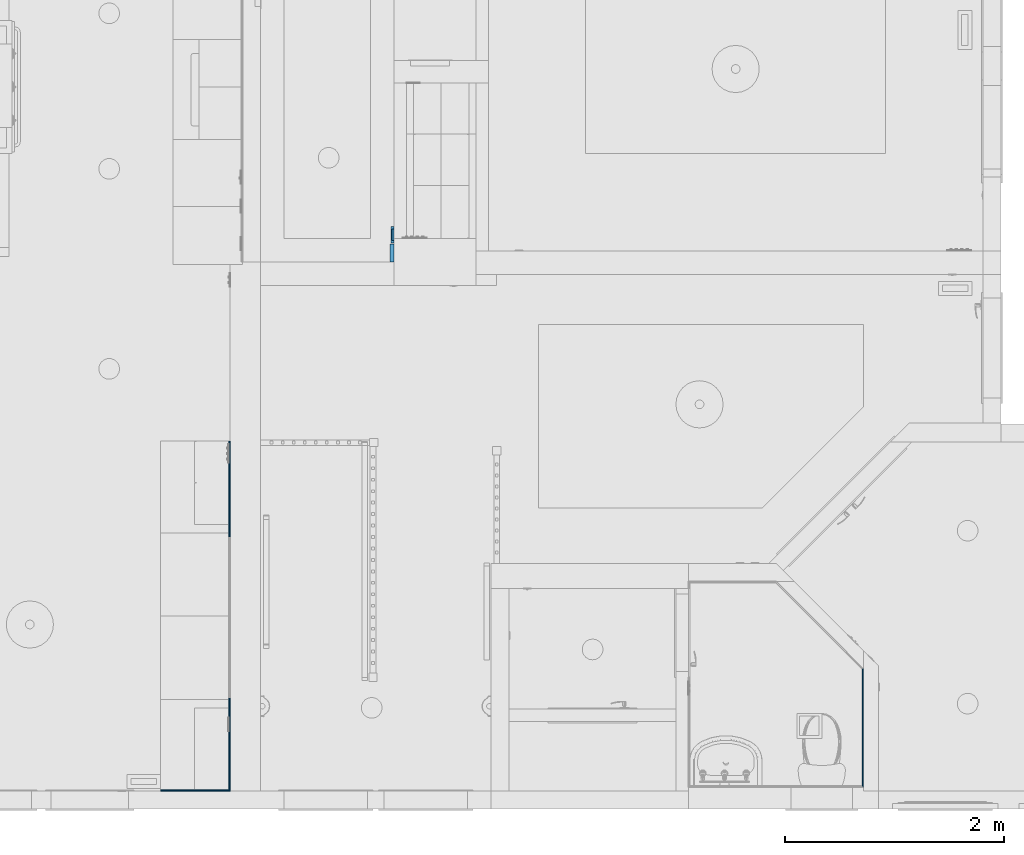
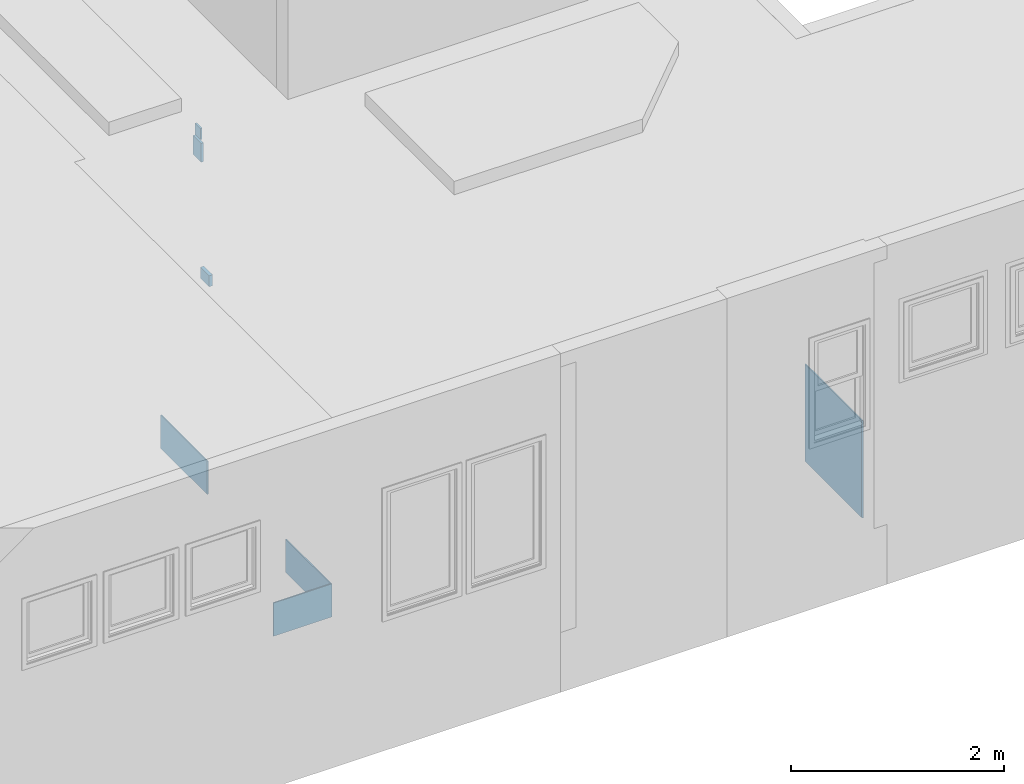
# One storey, part 4 of 103: 7 beams.
"""IFC2X3 building model written with IfcOpenShell, lengths in inches."""

from ifc_helpers import new_model, entity, si_unit, converted_unit, derived_unit, money_unit, direction, frame, origin_with_axes, place, context, subcontext, project, spatial, faceted_brep, material, type_object, element, save


model = new_model("IFC2X3")

# Units and contexts
model_context = context("Model", 3, precision=0.00039370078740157, world=origin_with_axes(), true_north=direction((0.0, 1.0)))
plan_context = context("Plan", 3, precision=0.00039370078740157, world=origin_with_axes(), true_north=direction((0.0, 1.0)))
body_context = subcontext(model_context, "Body", "Model", "MODEL_VIEW")
ifc_project = project(units=[converted_unit("LENGTHUNIT", "INCH", entity("IfcPositiveLengthMeasure", 0.0254), si_unit("LENGTHUNIT", "METRE"), dimensions=[1, 0, 0, 0, 0, 0, 0]), converted_unit("AREAUNIT", "SQUARE_FOOT", entity("IfcPositiveLengthMeasure", 0.09290304), si_unit("AREAUNIT", "SQUARE_METRE"), dimensions=[2, 0, 0, 0, 0, 0, 0]), si_unit("PLANEANGLEUNIT", "RADIAN"), si_unit("SOLIDANGLEUNIT", "STERADIAN"), money_unit("USD"), converted_unit("TIMEUNIT", "Year", entity("IfcTimeMeasure", 31557600.0), si_unit("TIMEUNIT", "SECOND"), dimensions=[0, 0, 1, 0, 0, 0, 0]), si_unit("MASSUNIT", "GRAM", prefix="KILO"), si_unit("THERMODYNAMICTEMPERATUREUNIT", "DEGREE_CELSIUS"), si_unit("LUMINOUSINTENSITYUNIT", "LUMEN"), si_unit("ENERGYUNIT", "JOULE", prefix="MEGA"), derived_unit("SPECIFICHEATCAPACITYUNIT", [(si_unit("ENERGYUNIT", "JOULE"), 1), (si_unit("MASSUNIT", "GRAM", prefix="KILO"), -1), (si_unit("THERMODYNAMICTEMPERATUREUNIT", "KELVIN"), -1)])], contexts=[model_context, plan_context])

# Site, building, storey
site_placement = place(None, origin_with_axes())
site = spatial("IfcSite", under=ifc_project, at=site_placement, Name="Site", CompositionType="ELEMENT")
building_placement = place(site_placement, origin_with_axes())
building = spatial("IfcBuilding", under=site, at=building_placement, Name="Building", CompositionType="ELEMENT")
storey_placement = place(building_placement, frame((0.0, 0.0, 127.9999999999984), z_axis=(0.0, 0.0, 1.0), x_axis=(1.0, 0.0, 0.0)))
storey = spatial("IfcBuildingStorey", under=building, at=storey_placement, Name="Second Floor", CompositionType="ELEMENT", Elevation=128.0)

# Beams
ifc_material_1 = material(Name="Tile - Walls")
beam_type_1 = type_object("IfcBeamType", Name="Tile - Walls 1/2\" x 15\"", PredefinedType="BEAM")
beam_1_placement = place(storey_placement, frame((125.5002584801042, 6.500653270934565, 35.99999999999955), z_axis=(0.0, 0.0, 1.0), x_axis=(-2.613110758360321e-05, -0.9999999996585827, 0.0)))
element("IfcBeam", 1, at=beam_1_placement, inside=storey, type_object=beam_type_1, material=ifc_material_1, Name="BMR - 041", context=body_context, shape_type="Brep", body=[
    faceted_brep([(-0.4999999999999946, 0.0, 0.0), (-0.4999999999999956, 24.49973131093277, 0.0), (0.0, 24.99974152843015, 0.0), (0.0, 0.0, 0.0), (-0.4999999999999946, 0.0, 14.99999999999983), (-0.4999999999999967, 24.49973131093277, 14.99999999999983), (0.0, 24.99974152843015, 14.99999999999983), (0.0, 0.0, 14.99999999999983)], [[[0, 1, 2, 3]], [[4, 5, 1, 0]], [[2, 1, 5, 6]], [[3, 2, 6, 7]], [[4, 0, 3, 7]], [[7, 6, 5, 4]]]),
])
beam_2_placement = place(storey_placement, frame((150.5000737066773, 98.00070408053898, 35.99999999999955), z_axis=(0.0, 0.0, 1.0), x_axis=(0.9999999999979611, 2.019381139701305e-06, 0.0)))
element("IfcBeam", 2, at=beam_2_placement, inside=storey, type_object=beam_type_1, material=ifc_material_1, Name="BMR - 041", context=body_context, shape_type="Brep", body=[
    faceted_brep([(0.0, 0.0, 0.0), (-0.4999999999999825, 0.0, 0.0), (-0.5, 34.49999967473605, 0.0), (0.0, 34.49999967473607, 0.0), (0.0, 0.0, 14.99999999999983), (-0.4999999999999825, 0.0, 14.99999999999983), (-0.5, 34.49999967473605, 14.99999999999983), (0.0, 34.49999967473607, 14.99999999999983)], [[[0, 1, 2, 3]], [[4, 5, 1, 0]], [[1, 5, 6, 2]], [[7, 3, 2, 6]], [[4, 0, 3, 7]], [[5, 4, 7, 6]]]),
])
beam_3_placement = place(storey_placement, frame((150.4999999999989, 6.499999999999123, 35.99999999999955), z_axis=(0.0, 0.0, 1.0), x_axis=(0.999999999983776, -5.696321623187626e-06, 0.0)))
element("IfcBeam", 3, at=beam_3_placement, inside=storey, type_object=beam_type_1, material=ifc_material_1, Name="BMR - 041", context=body_context, shape_type="Brep", body=[
    faceted_brep([(0.0, 0.0, 0.0), (-0.4999999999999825, 0.5000102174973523, 0.0), (-0.4999999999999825, 33.50070408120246, 0.0), (0.0, 33.50070408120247, 0.0), (0.0, 0.0, 14.99999999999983), (-0.4999999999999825, 0.5000102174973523, 14.99999999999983), (-0.4999999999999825, 33.50070408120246, 14.99999999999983), (0.0, 33.50070408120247, 14.99999999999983)], [[[0, 1, 2, 3]], [[4, 5, 1, 0]], [[1, 5, 6, 2]], [[7, 3, 2, 6]], [[4, 0, 3, 7]], [[5, 4, 7, 6]]]),
])
beam_type_2 = type_object("IfcBeamType", Name="Tile - Walls 1/2\" x 44\"", PredefinedType="BEAM")
beam_4_placement = place(storey_placement, frame((378.499999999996, 7.999999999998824, 0.0), z_axis=(0.0, 0.0, 1.0), x_axis=(1.0, 0.0, 0.0)))
element("IfcBeam", 4, at=beam_4_placement, inside=storey, type_object=beam_type_2, material=ifc_material_1, Name="BMR - 113", context=body_context, shape_type="Brep", body=[
    faceted_brep([(0.0, 0.0, 0.0), (-0.5000000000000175, 0.4999999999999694, 0.0), (-0.5000000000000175, 42.42893218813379, 0.0), (0.0, 42.63603896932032, 0.0), (0.0, 0.0, 43.99999999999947), (-0.5000000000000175, 0.4999999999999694, 43.99999999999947), (-0.5000000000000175, 42.42893218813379, 43.99999999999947), (0.0, 42.63603896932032, 43.99999999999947)], [[[0, 1, 2, 3]], [[4, 5, 1, 0]], [[1, 5, 6, 2]], [[7, 3, 2, 6]], [[4, 0, 3, 7]], [[5, 4, 7, 6]]]),
])
ifc_material_2 = material(Name="Generic - Structural")
beam_type_3 = type_object("IfcBeamType", Name="Generic - Structural 1\" x 8 1/2\"", PredefinedType="BEAM")
beam_5_placement = place(storey_placement, frame((209.5000001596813, 209.7812499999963, 101.4999999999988), z_axis=(0.0, 0.0, 1.0), x_axis=(-1.0, 0.0, 0.0)))
element("IfcBeam", 5, at=beam_5_placement, inside=storey, type_object=beam_type_3, material=ifc_material_2, Name="BMR - 012", context=body_context, shape_type="Brep", body=[
    faceted_brep([(0.0, 0.0, 0.0), (0.0, 5.99999999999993, 0.0), (1.000000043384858, 5.99999999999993, 0.0), (1.000000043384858, 0.0, 0.0), (0.0, 0.0, 8.500003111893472), (0.0, 5.99999999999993, 8.500003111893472), (1.000000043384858, 5.99999999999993, 8.500003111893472), (1.000000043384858, 0.0, 8.500003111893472)], [[[0, 1, 2, 3]], [[4, 5, 1, 0]], [[2, 1, 5, 6]], [[3, 2, 6, 7]], [[4, 0, 3, 7]], [[7, 6, 5, 4]]]),
])
beam_type_4 = type_object("IfcBeamType", Name="Generic - Structural 1 1/2\" x 5\"", PredefinedType="BEAM")
beam_6_placement = place(storey_placement, frame((209.5000001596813, 203.4999999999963, 49.49999999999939), z_axis=(0.0, 0.0, 1.0), x_axis=(-1.0, 0.0, 0.0)))
element("IfcBeam", 6, at=beam_6_placement, inside=storey, type_object=beam_type_4, material=ifc_material_2, Name="BMR - 012", context=body_context, shape_type="Brep", body=[
    faceted_brep([(0.0, 0.0, 0.0), (0.0, 6.499999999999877, 0.0), (1.499999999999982, 6.499999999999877, 0.0), (1.499999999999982, 0.0, 0.0), (0.0, 0.0, 5.000000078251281), (0.0, 6.499999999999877, 5.000000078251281), (1.499999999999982, 6.499999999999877, 5.000000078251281), (1.499999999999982, 0.0, 5.000000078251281)], [[[0, 1, 2, 3]], [[4, 5, 1, 0]], [[2, 1, 5, 6]], [[3, 2, 6, 7]], [[4, 0, 3, 7]], [[7, 6, 5, 4]]]),
])
beam_type_5 = type_object("IfcBeamType", Name="Generic - Structural 3/4\" x 5\"", PredefinedType="BEAM")
beam_7_placement = place(storey_placement, frame((209.5000001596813, 208.7812499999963, 110.9999999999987), z_axis=(0.0, 0.0, 1.0), x_axis=(-1.0, 0.0, 0.0)))
element("IfcBeam", 7, at=beam_7_placement, inside=storey, type_object=beam_type_5, material=ifc_material_2, Name="BMR - 012", context=body_context, shape_type="Brep", body=[
    faceted_brep([(0.0, 0.0, 0.0), (0.0, 4.0, 0.0), (0.7500797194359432, 4.0, 0.0), (0.7500797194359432, 0.0, 0.0), (0.0, 0.0, 5.000001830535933), (0.0, 4.0, 5.000001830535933), (0.7500797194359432, 4.0, 5.000001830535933), (0.7500797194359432, 0.0, 5.000001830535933)], [[[0, 1, 2, 3]], [[4, 5, 1, 0]], [[2, 1, 5, 6]], [[3, 2, 6, 7]], [[4, 0, 3, 7]], [[7, 6, 5, 4]]]),
])

save(model, "model.ifc")
